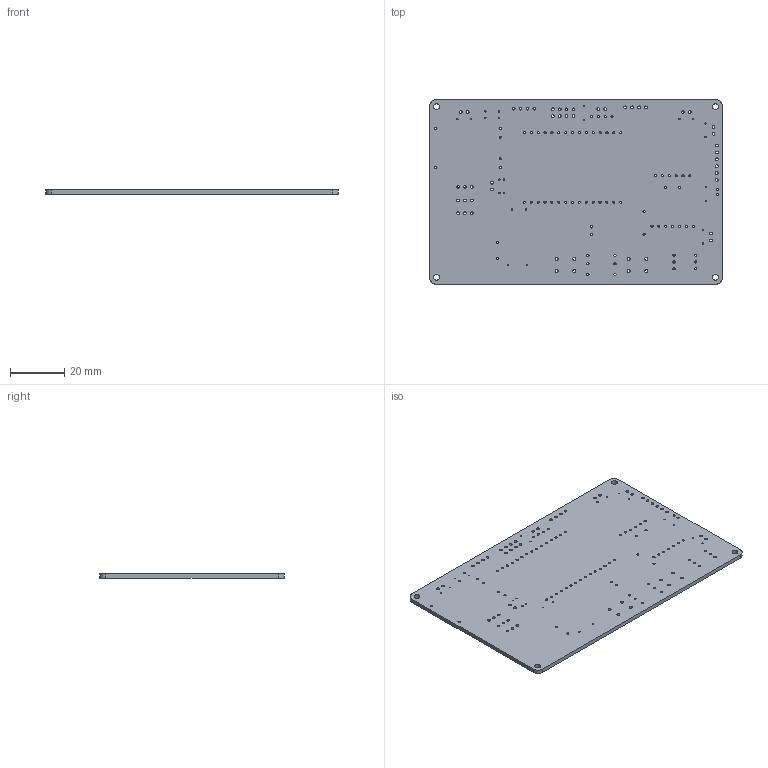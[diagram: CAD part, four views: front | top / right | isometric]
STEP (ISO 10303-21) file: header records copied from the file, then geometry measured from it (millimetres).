
FILE_DESCRIPTION(('KiCad electronic assembly'),'2;1');
FILE_NAME('pip_boy_V1.step','2026-05-02T14:39:53',('Pcbnew'),('Kicad'), 'Open CASCADE STEP processor 7.9','KiCad to STEP converter','Unknown' );
FILE_SCHEMA(('AUTOMOTIVE_DESIGN { 1 0 10303 214 1 1 1 1 }'));
Length unit declared in the file: millimetre
Products named in the file (2): pip_boy_V1 1; pip_boy_V1_PCB
Assembly tree (1 placements, depth 2):
  pip_boy_V1 1
    pip_boy_V1_PCB
Bounding box: 108 x 68 x 1.51 mm (x, y, z)
Volume: 10934.8 mm3; surface area: 15636.2 mm2
Topology: 1 solids, 1 shells, 164 faces, 486 edges, 324 vertices
Faces by surface type: cylinder 158, plane 6
Full cylindrical faces by diameter (mm): 0.5 x24, 0.8 x75, 1 x43, 1.1 x8, 2.2 x4
Entity records: 6339 total; most frequent: DIRECTION 1134, CARTESIAN_POINT 976, ORIENTED_EDGE 972, EDGE_CURVE 486, AXIS2_PLACEMENT_3D 482, FACE_BOUND 472, EDGE_LOOP 472, VERTEX_POINT 324
